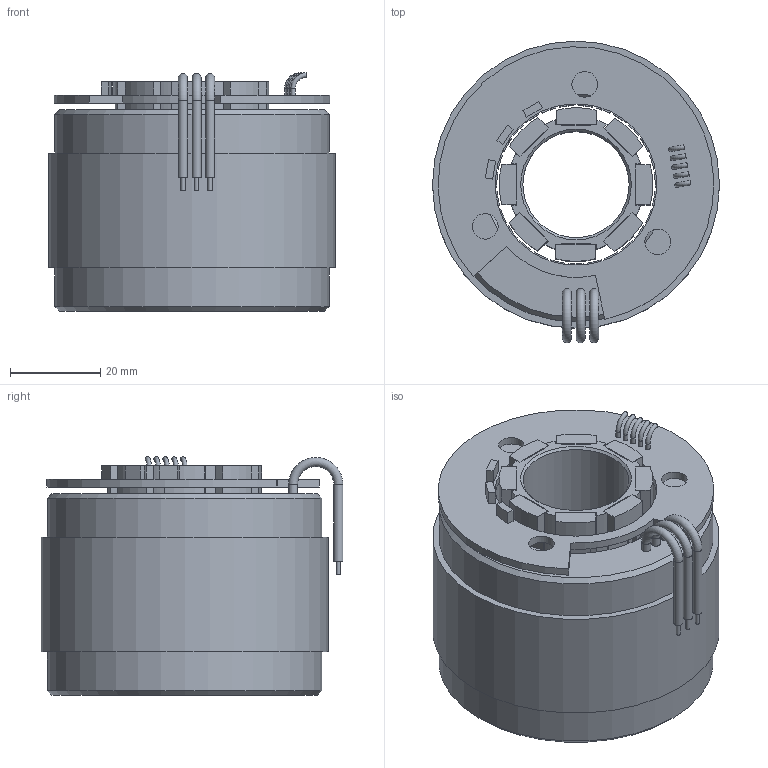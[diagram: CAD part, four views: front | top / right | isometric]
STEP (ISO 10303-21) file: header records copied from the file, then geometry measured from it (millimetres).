
FILE_DESCRIPTION((''),'2;1');
FILE_NAME('Z:\Product Library\Gearhead Library\1.Gearhead Step files\K064100-XX2.stp','2012-04-18T13:14:41',('hha4343'),(''),'Autodesk Inventor 2012','Autodesk Inventor 2012','');
FILE_SCHEMA(('AUTOMOTIVE_DESIGN { 1 0 10303 214 1 1 1 1 }'));
Length unit declared in the file: inch
Products named in the file (1): K064100-XX2_Shrinkwrap_1
Bounding box: 63.5 x 66.75 x 52.75 mm (x, y, z)
Volume: 75852.5 mm3; surface area: 56191.9 mm2
Topology: 3 solids, 3 shells, 672 faces, 1831 edges, 1149 vertices
Faces by surface type: plane 445, cylinder 213, torus 8, cone 6
Full cylindrical faces by diameter (mm): 0.946 x3, 1 x5, 2 x6, 5.657 x3, 23.495 x1, 35.739 x1, 38.1 x2, 60.7 x2, 63.5 x1
Entity records: 21376 total; most frequent: DIRECTION 3671, CARTESIAN_POINT 3595, ORIENTED_EDGE 3566, EDGE_CURVE 1783, VECTOR 1241, LINE 1241, AXIS2_PLACEMENT_3D 1215, VERTEX_POINT 1139
